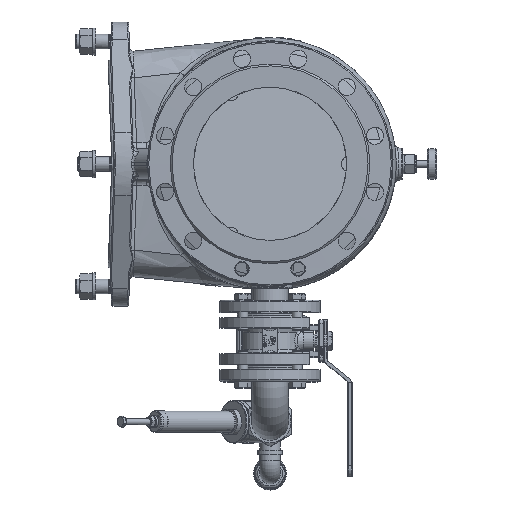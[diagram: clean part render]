
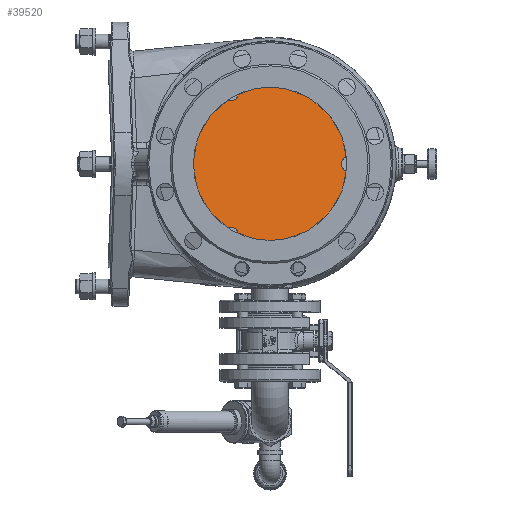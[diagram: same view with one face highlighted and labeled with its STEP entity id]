
A CAD part, top view. The second image highlights one B-rep face of the part: STEP entity #39520.
In plain terms, the highlighted planar face has unit normal (0.259, 0, 0.966).
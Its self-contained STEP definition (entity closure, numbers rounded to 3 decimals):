
#39459=CARTESIAN_POINT('',(-0.293,0.0,-0.027));
#39460=DIRECTION('',(-0.259,0.0,-0.966));
#39461=DIRECTION('',(0.0,-1.0,0.0));
#39462=AXIS2_PLACEMENT_3D('',#39459,#39460,#39461);
#39463=PLANE('',#39462);
#39464=CARTESIAN_POINT('',(-56.1,-121.459,14.926));
#39465=VERTEX_POINT('',#39464);
#39466=CARTESIAN_POINT('',(129.212,-10.695,-34.728));
#39467=VERTEX_POINT('',#39466);
#39468=CARTESIAN_POINT('',(-0.293,0.0,-0.027));
#39469=DIRECTION('',(0.259,0.0,0.966));
#39470=DIRECTION('',(0.0,-1.0,0.0));
#39471=AXIS2_PLACEMENT_3D('',#39468,#39469,#39470);
#39472=CIRCLE('',#39471,134.5);
#39473=EDGE_CURVE('',#39465,#39467,#39472,.T.);
#39474=ORIENTED_EDGE('',*,*,#39473,.T.);
#39475=CARTESIAN_POINT('',(129.212,10.695,-34.728));
#39476=VERTEX_POINT('',#39475);
#39477=CARTESIAN_POINT('',(126.726,0.0,-34.062));
#39478=DIRECTION('',(-0.259,0.0,-0.966));
#39479=DIRECTION('',(0.226,-0.972,-0.061));
#39480=AXIS2_PLACEMENT_3D('',#39477,#39478,#39479);
#39481=CIRCLE('',#39480,11.0);
#39482=EDGE_CURVE('',#39467,#39476,#39481,.T.);
#39483=ORIENTED_EDGE('',*,*,#39482,.T.);
#39484=CARTESIAN_POINT('',(-56.1,121.459,14.926));
#39485=VERTEX_POINT('',#39484);
#39486=CARTESIAN_POINT('',(-0.293,0.0,-0.027));
#39487=DIRECTION('',(0.259,0.0,0.966));
#39488=DIRECTION('',(0.0,1.0,0.0));
#39489=AXIS2_PLACEMENT_3D('',#39486,#39487,#39488);
#39490=CIRCLE('',#39489,134.5);
#39491=EDGE_CURVE('',#39476,#39485,#39490,.T.);
#39492=ORIENTED_EDGE('',*,*,#39491,.T.);
#39493=CARTESIAN_POINT('',(-73.993,110.764,19.72));
#39494=VERTEX_POINT('',#39493);
#39495=CARTESIAN_POINT('',(-63.803,113.882,16.99));
#39496=DIRECTION('',(-0.259,0.,-0.966));
#39497=DIRECTION('',(0.7,0.689,-0.188));
#39498=AXIS2_PLACEMENT_3D('',#39495,#39496,#39497);
#39499=CIRCLE('',#39498,11.);
#39500=EDGE_CURVE('',#39485,#39494,#39499,.T.);
#39501=ORIENTED_EDGE('',*,*,#39500,.T.);
#39502=CARTESIAN_POINT('',(-73.993,-110.764,19.72));
#39503=VERTEX_POINT('',#39502);
#39504=CARTESIAN_POINT('',(-0.293,0.0,-0.027));
#39505=DIRECTION('',(0.259,0.,0.966));
#39506=DIRECTION('',(-0.548,0.824,0.147));
#39507=AXIS2_PLACEMENT_3D('',#39504,#39505,#39506);
#39508=CIRCLE('',#39507,134.5);
#39509=EDGE_CURVE('',#39494,#39503,#39508,.T.);
#39510=ORIENTED_EDGE('',*,*,#39509,.T.);
#39511=CARTESIAN_POINT('',(-63.803,-113.882,16.99));
#39512=DIRECTION('',(-0.259,0.0,-0.966));
#39513=DIRECTION('',(-0.926,0.283,0.248));
#39514=AXIS2_PLACEMENT_3D('',#39511,#39512,#39513);
#39515=CIRCLE('',#39514,11.);
#39516=EDGE_CURVE('',#39503,#39465,#39515,.T.);
#39517=ORIENTED_EDGE('',*,*,#39516,.T.);
#39518=EDGE_LOOP('',(#39474,#39483,#39492,#39501,#39510,#39517));
#39519=FACE_OUTER_BOUND('',#39518,.T.);
#39520=ADVANCED_FACE('',(#39519),#39463,.F.);
